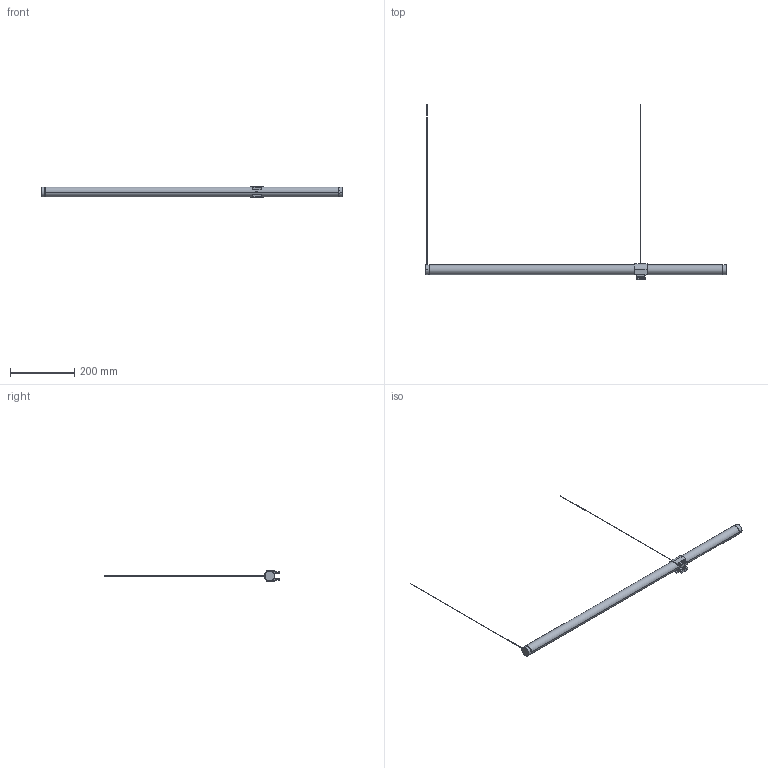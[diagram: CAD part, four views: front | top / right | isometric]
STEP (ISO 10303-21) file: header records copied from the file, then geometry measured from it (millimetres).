
FILE_DESCRIPTION (( 'STEP AP214' ), '1' );
FILE_NAME ('ACTUCCXXXXLA1XX.STEP', '2023-08-29T07:41:14', ( '' ), ( '' ), 'SwSTEP 2.0', 'SolidWorks 2023', '' );
FILE_SCHEMA (( 'AUTOMOTIVE_DESIGN' ));
Length unit declared in the file: millimetre
Products named in the file (6): WSCP2E0003-1400-02; WSCP2E0048-1400-00; WSCA01193000B2830B; ACTUCCXXXXLA1XX; WSCP2E0044-1400-01; WSVBPAR091225XX-00
Assembly tree (6 placements, depth 2):
  ACTUCCXXXXLA1XX
    WSVBPAR091225XX-00
    WSCP2E0003-1400-02
    WSCP2E0048-1400-00
    WSCA01193000B2830B  x2
    WSCP2E0044-1400-01
Bounding box: 936 x 543.15 x 36.2 mm (x, y, z)
Volume: 250761.9 mm3; surface area: 177886.6 mm2
Topology: 6 solids, 6 shells, 1721 faces, 4145 edges, 2231 vertices
Faces by surface type: cylinder 700, torus 466, plane 209, sphere 185, bspline 151, cone 10
Entity records: 52465 total; most frequent: CARTESIAN_POINT 14307, DIRECTION 8780, ORIENTED_EDGE 7664, EDGE_CURVE 3832, AXIS2_PLACEMENT_3D 3782, CIRCLE 2210, VERTEX_POINT 2130, EDGE_LOOP 1738
